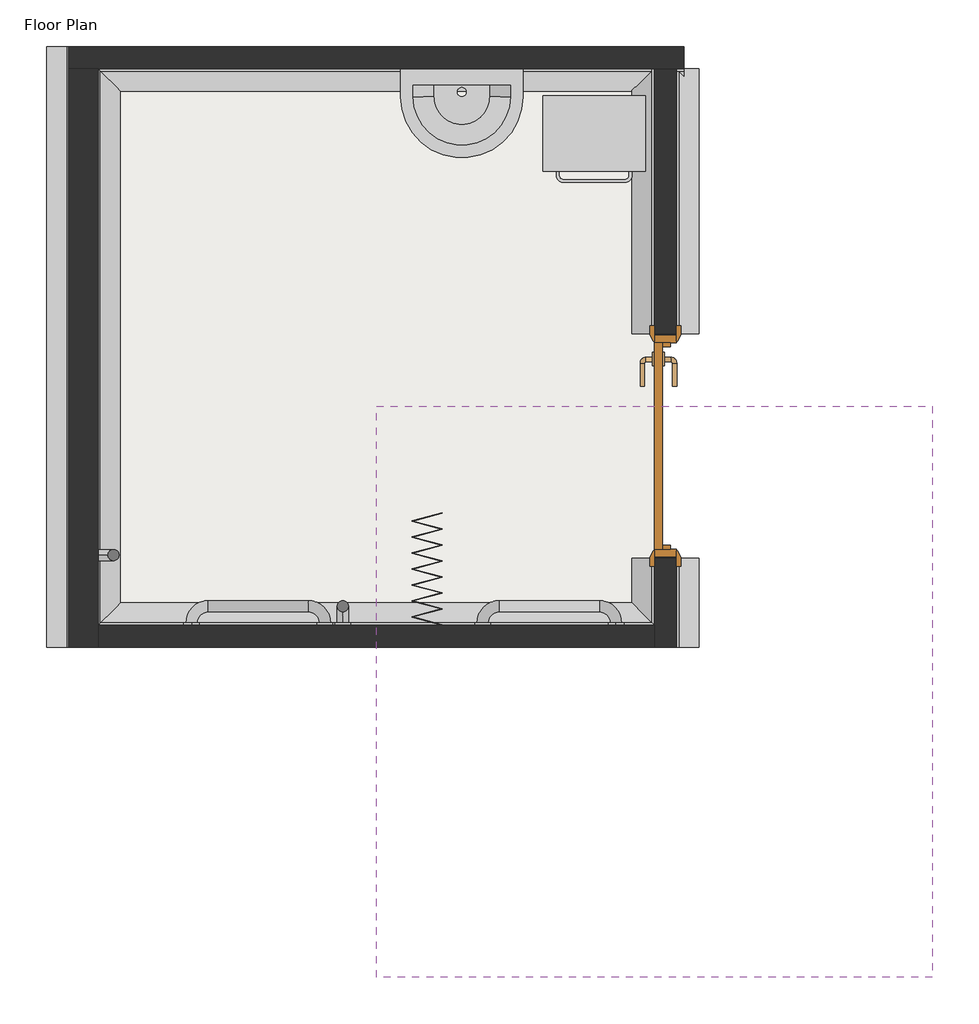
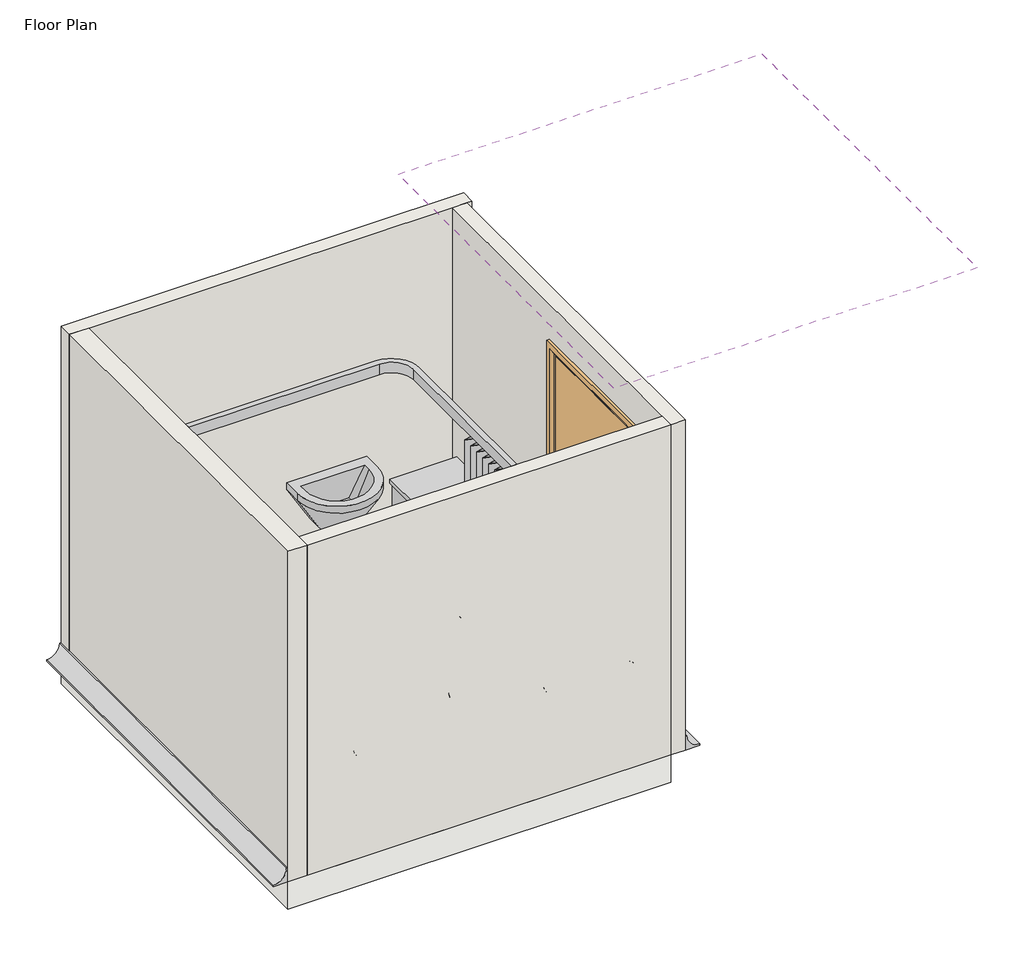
# One storey, incomplete: 10 proxies, 4 walls, 2 furniture elements, 1 covering, 1 door, 1 flow terminal, 1 slab.
"""IFC4 building model written with IfcOpenShell, lengths in millimetres."""

from ifc_helpers import new_model, si_unit, point, frame, frame_2d, origin, origin_with_axes, place, context, project, spatial, polyline, circle_curve, ellipse_curve, trimmed, segment, composite_curve, outline, extrude, faceted_brep, transform, mapped, element, save
from ifc_brep_helpers import plane_surface, revolved_surface, advanced_brep
from components import type_1_021b8e3e, type_1_f4c963d5, type_1_f76a5bbc, type_1_63a6e16b, door_1010x2110mm_ad0e13af, flow_terminal_9bf15598, furniture_46abfedd, furniture_af9008cf

model = new_model("IFC4")

# Units and contexts
model_context = context("Model", 3, world=origin())
ifc_project = project(units=[si_unit("LENGTHUNIT", "METRE", prefix="MILLI")], contexts=[model_context])

# Site, building, storey
site = spatial("IfcSite", under=ifc_project)
building = spatial("IfcBuilding", under=site)
storey = spatial("IfcBuildingStorey", under=building, Name="Floor Plan", Elevation=0.0)

# Proxies
placement = place(None, origin())
element("IfcBuildingElementProxy", 1, Name="Wall Sweeps", at=placement, inside=storey, context=model_context, shape_type="SweptSolid", body=[
    extrude(outline(composite_curve([segment(polyline([(0.0, 2105.0), (0.0, 2205.0), (10.0, 2205.0)]), True, "CONTINUOUS"), segment(trimmed(circle_curve(frame_2d((100.0, 2205.0)), 90.0), [point((10.0, 2205.0))], [point((100.0, 2115.0))], True, "CARTESIAN"), True, "CONTINUOUS"), segment(polyline([(100.0, 2115.0), (100.0, 2105.0), (0.0, 2105.0)]), True, "CONTINUOUS")], self_intersect=False)), frame((0.0, 2815.0, 0.0), z_axis=(0.0, 1.0, 0.0), x_axis=(0.0, 0.0, 1.0)), (0.0, 0.0, 1.0), 400.0),
    extrude(outline(composite_curve([segment(polyline([(0.0, 2105.0), (0.0, 2205.0), (10.0, 2205.0)]), True, "CONTINUOUS"), segment(trimmed(circle_curve(frame_2d((100.0, 2205.0)), 90.0), [point((10.0, 2205.0))], [point((100.0, 2115.0))], True, "CARTESIAN"), True, "CONTINUOUS"), segment(polyline([(100.0, 2115.0), (100.0, 2105.0), (0.0, 2105.0)]), True, "CONTINUOUS")], self_intersect=False)), frame((0.0, 4225.0, 0.0), z_axis=(0.0, 1.0, 0.0), x_axis=(0.0, 0.0, 1.0)), (0.0, 0.0, 1.0), 1190.0),
])
element("IfcBuildingElementProxy", 2, Name="Wall Sweeps", at=placement, inside=storey, context=model_context, shape_type="AdvancedBrep", body=[
    advanced_brep(
    [(-495.0, 5415.0, 0.0), (-395.0, 5315.0, 0.0), (-395.0, 5315.0, 10.0), (-485.0, 5405.0, 100.0), (-495.0, 5415.0, 100.0), (2139.0, 5415.0, 0.0), (2139.0, 5415.0, 100.0), (2139.0, 5405.0, 100.0), (2139.0, 5315.0, 10.0), (2139.0, 5315.0, 0.0)],
    [
        (0, 1),
        (1, 2),
        (2, 3, ellipse_curve(frame((-395.0, 5315.0, 100.0), z_axis=(0.7071067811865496, 0.7071067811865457, 0.0), x_axis=(0.7071067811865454, -0.7071067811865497, 0.0)), 127.2792206, 90.0)),
        (3, 4),
        (4, 0),
        (5, 6),
        (6, 7),
        (7, 8, circle_curve(frame((2139.0, 5315.0, 100.0), z_axis=(-1.0, 0.0, 0.0), x_axis=(0.0, -1.0, 0.0)), 90.0)),
        (8, 9),
        (9, 5),
        (0, 5),
        (9, 1),
        (8, 2),
        (7, 3),
        (6, 4),
    ],
    [
        plane_surface(frame((-495.0, 5415.0, 304.8), z_axis=(-0.7071067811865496, -0.7071067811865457, 0.0), x_axis=(0.7071067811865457, -0.7071067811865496, 0.0))),
        plane_surface(frame((2139.0, 5415.0, -100.4987562), z_axis=(1.0, 0.0, 0.0), x_axis=(0.0, 1.0, 0.0))),
        plane_surface(frame((-495.0, 5415.0, 0.0), z_axis=(0.0, 0.0, -1.0), x_axis=(1.0, 0.0, 0.0))),
        plane_surface(frame((-395.0, 5315.0, 0.0), z_axis=(0.0, -1.0, 0.0), x_axis=(1.0, 0.0, 0.0))),
        revolved_surface(polyline([(2139.0, 5225.0, 100.0), (-485.0, 5225.0, 100.0)]), (-495.0, 5315.0, 100.0), (1.0, 0.0, 0.0)),
        plane_surface(frame((-485.0, 5405.0, 100.0), z_axis=(0.0, 0.0, 1.0), x_axis=(1.0, 0.0, 0.0))),
        plane_surface(frame((-495.0, 5415.0, 100.0), z_axis=(0.0, 1.0, 0.0), x_axis=(1.0, 0.0, 0.0))),
    ],
    [
        (0, [[1, 2, 3, 4, 5]]),
        (1, [[6, 7, 8, 9, 10]]),
        (2, [[-1, 11, -10, 12]]),
        (3, [[-2, -12, -9, 13]]),
        (4, [[-3, -13, -8, 14]]),
        (5, [[-4, -14, -7, 15]]),
        (6, [[-5, -15, -6, -11]]),
    ],
),
])
element("IfcBuildingElementProxy", 3, Name="Wall Sweeps", at=placement, inside=storey, context=model_context, shape_type="AdvancedBrep", body=[
    advanced_brep(
    [(-495.0, 5415.0, 0.0), (-495.0, 5415.0, 100.0), (-485.0, 5405.0, 100.0), (-395.0, 5315.0, 10.0), (-395.0, 5315.0, 0.0), (-495.0, 2915.0, 0.0), (-395.0, 3015.0, 0.0), (-395.0, 3015.0, 10.0), (-485.0, 2925.0, 100.0), (-495.0, 2915.0, 100.0)],
    [
        (0, 1),
        (1, 2),
        (2, 3, ellipse_curve(frame((-395.0, 5315.0, 100.0), z_axis=(-0.7071067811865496, -0.7071067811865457, 0.0), x_axis=(0.7071067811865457, -0.7071067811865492, 0.0)), 127.2792206, 90.0)),
        (3, 4),
        (4, 0),
        (5, 6),
        (6, 7),
        (7, 8, ellipse_curve(frame((-395.0, 3015.0, 100.0), z_axis=(-0.707106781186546, 0.7071067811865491, 0.0), x_axis=(-0.7071067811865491, -0.7071067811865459, 0.0)), 127.2792206, 90.0)),
        (8, 9),
        (9, 5),
        (0, 5),
        (9, 1),
        (8, 2),
        (7, 3),
        (6, 4),
    ],
    [
        plane_surface(frame((-495.0, 5415.0, -304.8), z_axis=(0.7071067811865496, 0.7071067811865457, 0.0), x_axis=(0.7071067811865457, -0.7071067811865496, 0.0))),
        plane_surface(frame((-495.0, 2915.0, -304.8), z_axis=(0.707106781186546, -0.7071067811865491, 0.0), x_axis=(0.7071067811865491, 0.707106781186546, 0.0))),
        plane_surface(frame((-495.0, 5415.0, 0.0), z_axis=(-1.0, 0.0, 0.0), x_axis=(0.0, -1.0, 0.0))),
        plane_surface(frame((-495.0, 5415.0, 100.0), z_axis=(0.0, 0.0, 1.0), x_axis=(0.0, -1.0, 0.0))),
        revolved_surface(polyline([(-305.0, 2925.0, 100.0), (-305.0, 5405.0, 100.0)]), (-395.0, 5415.0, 100.0), (0.0, -1.0, 0.0)),
        plane_surface(frame((-395.0, 5315.0, 10.0), z_axis=(1.0, 0.0, 0.0), x_axis=(0.0, -1.0, 0.0))),
        plane_surface(frame((-395.0, 5315.0, 0.0), z_axis=(0.0, 0.0, -1.0), x_axis=(0.0, -1.0, 0.0))),
    ],
    [
        (0, [[1, 2, 3, 4, 5]]),
        (1, [[6, 7, 8, 9, 10]]),
        (2, [[-1, 11, -10, 12]]),
        (3, [[-2, -12, -9, 13]]),
        (4, [[-3, -13, -8, 14]]),
        (5, [[-4, -14, -7, 15]]),
        (6, [[-5, -15, -6, -11]]),
    ],
),
])
element("IfcBuildingElementProxy", 4, Name="Wall Sweeps", at=placement, inside=storey, context=model_context, shape_type="AdvancedBrep", body=[
    advanced_brep(
    [(-495.0, 2915.0, 0.0), (-495.0, 2915.0, 100.0), (-485.0, 2925.0, 100.0), (-395.0, 3015.0, 10.0), (-395.0, 3015.0, 0.0), (2005.0, 2915.0, 0.0), (1905.0, 3015.0, 0.0), (1905.0, 3015.0, 10.0), (1995.0, 2925.0, 100.0), (2005.0, 2915.0, 100.0)],
    [
        (0, 1),
        (1, 2),
        (2, 3, ellipse_curve(frame((-395.0, 3015.0, 100.0), z_axis=(0.707106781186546, -0.7071067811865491, 0.0), x_axis=(0.707106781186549, 0.707106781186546, 0.0)), 127.2792206, 90.0)),
        (3, 4),
        (4, 0),
        (5, 6),
        (6, 7),
        (7, 8, ellipse_curve(frame((1905.0, 3015.0, 100.0), z_axis=(-0.7071067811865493, -0.7071067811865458, 0.0), x_axis=(0.7071067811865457, -0.7071067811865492, 0.0)), 127.2792206, 90.0)),
        (8, 9),
        (9, 5),
        (0, 5),
        (9, 1),
        (8, 2),
        (7, 3),
        (6, 4),
    ],
    [
        plane_surface(frame((-495.0, 2915.0, -304.8), z_axis=(-0.707106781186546, 0.7071067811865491, 0.0), x_axis=(0.7071067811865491, 0.707106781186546, 0.0))),
        plane_surface(frame((2005.0, 2915.0, -304.8), z_axis=(0.7071067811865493, 0.7071067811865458, 0.0), x_axis=(-0.7071067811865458, 0.7071067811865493, 0.0))),
        plane_surface(frame((-495.0, 2915.0, 0.0), z_axis=(0.0, -1.0, 0.0), x_axis=(1.0, 0.0, 0.0))),
        plane_surface(frame((-495.0, 2915.0, 100.0), z_axis=(0.0, 0.0, 1.0), x_axis=(1.0, 0.0, 0.0))),
        revolved_surface(polyline([(1995.0, 3105.0, 100.0), (-485.0, 3105.0, 100.0)]), (-495.0, 3015.0, 100.0), (1.0, 0.0, 0.0)),
        plane_surface(frame((-395.0, 3015.0, 10.0), z_axis=(0.0, 1.0, 0.0), x_axis=(1.0, 0.0, 0.0))),
        plane_surface(frame((-395.0, 3015.0, 0.0), z_axis=(0.0, 0.0, -1.0), x_axis=(1.0, 0.0, 0.0))),
    ],
    [
        (0, [[1, 2, 3, 4, 5]]),
        (1, [[6, 7, 8, 9, 10]]),
        (2, [[-1, 11, -10, 12]]),
        (3, [[-2, -12, -9, 13]]),
        (4, [[-3, -13, -8, 14]]),
        (5, [[-4, -14, -7, 15]]),
        (6, [[-5, -15, -6, -11]]),
    ],
),
])
element("IfcBuildingElementProxy", 5, Name="Wall Sweeps", at=placement, inside=storey, context=model_context, shape_type="AdvancedBrep", body=[
    advanced_brep(
    [(2005.0, 2915.0, 0.0), (2005.0, 2915.0, 100.0), (1995.0, 2925.0, 100.0), (1905.0, 3015.0, 10.0), (1905.0, 3015.0, 0.0), (2005.0, 3215.0, 0.0), (1905.0, 3215.0, 0.0), (1905.0, 3215.0, 10.0), (1995.0, 3215.0, 100.0), (2005.0, 3215.0, 100.0)],
    [
        (0, 1),
        (1, 2),
        (2, 3, ellipse_curve(frame((1905.0, 3015.0, 100.0), z_axis=(0.7071067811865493, 0.7071067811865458, 0.0), x_axis=(-0.7071067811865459, 0.7071067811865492, 0.0)), 127.2792206, 90.0)),
        (3, 4),
        (4, 0),
        (5, 6),
        (6, 7),
        (7, 8, circle_curve(frame((1905.0, 3215.0, 100.0), z_axis=(0.0, -1.0, 0.0), x_axis=(-1.0, 0.0, 0.0)), 90.0)),
        (8, 9),
        (9, 5),
        (0, 5),
        (9, 1),
        (8, 2),
        (7, 3),
        (6, 4),
    ],
    [
        plane_surface(frame((2005.0, 2915.0, -304.8), z_axis=(-0.7071067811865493, -0.7071067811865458, 0.0), x_axis=(-0.7071067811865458, 0.7071067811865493, 0.0))),
        plane_surface(frame((1904.5012438, 3215.0, 0.0), z_axis=(0.0, 1.0, 0.0), x_axis=(0.0, 0.0, 1.0))),
        plane_surface(frame((2005.0, 2915.0, 0.0), z_axis=(1.0, 0.0, 0.0), x_axis=(0.0, 1.0, 0.0))),
        plane_surface(frame((2005.0, 2915.0, 100.0), z_axis=(0.0, 0.0, 1.0), x_axis=(0.0, 1.0, 0.0))),
        revolved_surface(polyline([(1815.0, 3215.0, 100.0), (1815.0, 2925.0, 100.0)]), (1905.0, 2915.0, 100.0), (0.0, 1.0, 0.0)),
        plane_surface(frame((1905.0, 3015.0, 10.0), z_axis=(-1.0, 0.0, 0.0), x_axis=(0.0, 1.0, 0.0))),
        plane_surface(frame((1905.0, 3015.0, 0.0), z_axis=(0.0, 0.0, -1.0), x_axis=(0.0, 1.0, 0.0))),
    ],
    [
        (0, [[1, 2, 3, 4, 5]]),
        (1, [[6, 7, 8, 9, 10]]),
        (2, [[-1, 11, -10, 12]]),
        (3, [[-2, -12, -9, 13]]),
        (4, [[-3, -13, -8, 14]]),
        (5, [[-4, -14, -7, 15]]),
        (6, [[-5, -15, -6, -11]]),
    ],
),
    advanced_brep(
    [(2005.0, 4225.0, 0.0), (2005.0, 4225.0, 100.0), (1995.0, 4225.0, 100.0), (1905.0, 4225.0, 10.0), (1905.0, 4225.0, 0.0), (2005.0, 5415.0, 0.0), (1905.0, 5415.0, 0.0), (1905.0, 5415.0, 10.0), (1995.0, 5415.0, 100.0), (2005.0, 5415.0, 100.0)],
    [
        (0, 1),
        (1, 2),
        (2, 3, circle_curve(frame((1905.0, 4225.0, 100.0), z_axis=(0.0, 1.0, 0.0), x_axis=(-1.0, 0.0, 0.0)), 90.0)),
        (3, 4),
        (4, 0),
        (5, 6),
        (6, 7),
        (7, 8, circle_curve(frame((1905.0, 5415.0, 100.0), z_axis=(0.0, -1.0, 0.0), x_axis=(-1.0, 0.0, 0.0)), 90.0)),
        (8, 9),
        (9, 5),
        (0, 5),
        (9, 1),
        (8, 2),
        (7, 3),
        (6, 4),
    ],
    [
        plane_surface(frame((1904.5012438, 4225.0, 0.0), z_axis=(0.0, -1.0, 0.0), x_axis=(0.0, 0.0, 1.0))),
        plane_surface(frame((1904.5012438, 5415.0, 0.0), z_axis=(0.0, 1.0, 0.0), x_axis=(0.0, 0.0, 1.0))),
        plane_surface(frame((2005.0, 4225.0, 0.0), z_axis=(1.0, 0.0, 0.0), x_axis=(0.0, 1.0, 0.0))),
        plane_surface(frame((2005.0, 4225.0, 100.0), z_axis=(0.0, 0.0, 1.0), x_axis=(0.0, 1.0, 0.0))),
        revolved_surface(polyline([(1815.0, 5415.0, 100.0), (1815.0, 4225.0, 100.0)]), (1905.0, 4225.0, 100.0), (0.0, 1.0, 0.0)),
        plane_surface(frame((1905.0, 4225.0, 10.0), z_axis=(-1.0, 0.0, 0.0), x_axis=(0.0, 1.0, 0.0))),
        plane_surface(frame((1905.0, 4225.0, 0.0), z_axis=(0.0, 0.0, -1.0), x_axis=(0.0, 1.0, 0.0))),
    ],
    [
        (0, [[1, 2, 3, 4, 5]]),
        (1, [[6, 7, 8, 9, 10]]),
        (2, [[-1, 11, -10, 12]]),
        (3, [[-2, -12, -9, 13]]),
        (4, [[-3, -13, -8, 14]]),
        (5, [[-4, -14, -7, 15]]),
        (6, [[-5, -15, -6, -11]]),
    ],
),
])
element("IfcBuildingElementProxy", 6, Name="Wall Sweeps", at=placement, inside=storey, context=model_context, shape_type="AdvancedBrep", body=[
    advanced_brep(
    [(-627.0, 5515.0, 0.0), (-727.0, 5515.0, 0.0), (-727.0, 5515.0, 10.0), (-637.0, 5515.0, 100.0), (-627.0, 5515.0, 100.0), (-627.0, 2815.0, 0.0), (-627.0, 2815.0, 100.0), (-637.0, 2815.0, 100.0), (-727.0, 2815.0, 10.0), (-727.0, 2815.0, 0.0), (-627.0, 5415.0, 0.0)],
    [
        (0, 1),
        (1, 2),
        (2, 3, circle_curve(frame((-727.0, 5515.0, 100.0), z_axis=(0.0, -1.0, 0.0), x_axis=(-1.0, 0.0, 0.0)), 90.0)),
        (3, 4),
        (4, 0),
        (5, 6),
        (6, 7),
        (7, 8, circle_curve(frame((-727.0, 2815.0, 100.0), z_axis=(0.0, 1.0, 0.0), x_axis=(-1.0, 0.0, 0.0)), 90.0)),
        (8, 9),
        (9, 5),
        (0, 10),
        (10, 5),
        (9, 1),
        (8, 2),
        (7, 3),
        (6, 4),
    ],
    [
        plane_surface(frame((-727.4987562, 5515.0, 0.0), z_axis=(0.0, 1.0, 0.0), x_axis=(0.0, 0.0, -1.0))),
        plane_surface(frame((-727.4987562, 2815.0, 0.0), z_axis=(0.0, -1.0, 0.0), x_axis=(0.0, 0.0, -1.0))),
        plane_surface(frame((-627.0, 5515.0, 0.0), z_axis=(0.0, 0.0, -1.0), x_axis=(0.0, -1.0, 0.0))),
        plane_surface(frame((-727.0, 5515.0, 0.0), z_axis=(-1.0, 0.0, 0.0), x_axis=(0.0, -1.0, 0.0))),
        revolved_surface(polyline([(-817.0, 2815.0, 100.0), (-817.0, 5515.0, 100.0)]), (-727.0, 5515.0, 100.0), (0.0, -1.0, 0.0)),
        plane_surface(frame((-637.0, 5515.0, 100.0), z_axis=(0.0, 0.0, 1.0), x_axis=(0.0, -1.0, 0.0))),
        plane_surface(frame((-627.0, 5515.0, 100.0), z_axis=(1.0, 0.0, 0.0), x_axis=(0.0, -1.0, 0.0))),
    ],
    [
        (0, [[1, 2, 3, 4, 5]]),
        (1, [[6, 7, 8, 9, 10]]),
        (2, [[-1, 11, 12, -10, 13]]),
        (3, [[-2, -13, -9, 14]]),
        (4, [[-3, -14, -8, 15]]),
        (5, [[-4, -15, -7, 16]]),
        (6, [[-5, -16, -6, -12, -11]]),
    ],
),
])
type_1_shape = type_1_021b8e3e(model_context)
element("IfcBuildingElementProxy", 7, Name="BIMHealth-Grab_Rail_Horizontal-LOD2A-v1 : Type 1", ObjectType="BIMHealth-Grab_Rail_Horizontal-LOD2A-v1 : Type 1", at=placement, inside=storey, context=model_context, shape_type="MappedRepresentation", body=[
    mapped(type_1_shape, transform((100.0, 2865.0, 0.0), x_axis=(1.0, 0.0, 0.0), y_axis=(0.0, 1.0, 0.0), z_axis=(0.0, 0.0, 1.0))),
])
type_1_2_shape = type_1_f4c963d5(model_context)
element("IfcBuildingElementProxy", 8, Name="BIMHealth-Grab_Rail_Vertical-LOD2A-v1 : Type 1", ObjectType="BIMHealth-Grab_Rail_Vertical-LOD2A-v1 : Type 1", at=placement, inside=storey, context=model_context, shape_type="MappedRepresentation", body=[
    mapped(type_1_2_shape, transform((730.0, 2865.0, 0.0), x_axis=(-1.0, 0.0, 0.0), y_axis=(0.0, -1.0, 0.0), z_axis=(0.0, 0.0, 1.0))),
])
type_1_3_shape = type_1_f76a5bbc(model_context)
element("IfcBuildingElementProxy", 9, Name="BIMHealth-Grab_Rail_Horizontal-LOD2A-v1 : Type 1", ObjectType="BIMHealth-Grab_Rail_Horizontal-LOD2A-v1 : Type 1", at=placement, inside=storey, context=model_context, shape_type="MappedRepresentation", body=[
    mapped(type_1_3_shape, transform((1658.5052831, 2865.0, 0.0), x_axis=(-1.0, 0.0, 0.0), y_axis=(0.0, -1.0, 0.0), z_axis=(0.0, 0.0, 1.0))),
])
type_1_4_shape = type_1_63a6e16b(model_context)
element("IfcBuildingElementProxy", 10, Name="BIMHealth-Grab_Rail_Vertical-LOD2A-v1 : Type 1", ObjectType="BIMHealth-Grab_Rail_Vertical-LOD2A-v1 : Type 1", at=placement, inside=storey, context=model_context, shape_type="MappedRepresentation", body=[
    mapped(type_1_4_shape, transform((-561.0, 3355.0, 0.0), x_axis=(0.0, -1.0, 0.0), y_axis=(1.0, 0.0, 0.0), z_axis=(0.0, 0.0, 1.0))),
])

# Covering
element("IfcCovering", 11, ObjectType="BIMHealth - Generic Ceiling", at=placement, inside=storey, context=model_context, shape_type="SweptSolid", body=[
    extrude(outline(polyline([(3256.0020268, 1331.4241738), (756.0020268, 1331.4241738), (756.0020268, 3898.7260975), (3256.0020268, 3898.7260975), (3256.0020268, 1331.4241738)])), frame((0.0, 0.0, 4000.0), z_axis=(0.0, 0.0, 1.0), x_axis=(1.0, 0.0, 0.0)), (0.0, 0.0, 1.0), 52.0),
])

# Door
door_1010x2110mm_shape = door_1010x2110mm_ad0e13af(model_context)
element("IfcDoor", 12, ObjectType="BIMHealth-Single_Door-LOD2A-v1 : 1010x2110mm", at=placement, inside=storey, context=model_context, shape_type="MappedRepresentation", body=[
    mapped(door_1010x2110mm_shape, transform((2055.0, 3720.0, 0.0), x_axis=(0.0, -1.0, 0.0), y_axis=(1.0, 0.0, 0.0), z_axis=(0.0, 0.0, 1.0))),
])

# Flow terminal
flow_terminal_shape = flow_terminal_9bf15598(model_context)
element("IfcFlowTerminal", 13, ObjectType="BIMHealth-Wash_basin_Doc_M-LOD2A-v1 : BIMHealth-Wash_basin_Doc_M-LOD2A-v1", at=placement, inside=storey, context=model_context, shape_type="MappedRepresentation", body=[
    mapped(flow_terminal_shape, transform((1415.0, 5415.0, 500.0), x_axis=(-1.0000000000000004, 0.0, 0.0), y_axis=(0.0, -1.0000000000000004, 0.0), z_axis=(0.0, 0.0, 1.0))),
])

# Furniture
furniture_shape = furniture_46abfedd(model_context)
element("IfcFurniture", 14, ObjectType="BIMHealth-Curtain_Doc_M-LOD2A-v1 : BIMHealth-Curtain_Doc_M-LOD2A-v1", at=placement, inside=storey, context=model_context, shape_type="MappedRepresentation", body=[
    mapped(furniture_shape, transform((1005.0, 2915.0, 0.0), x_axis=(0.0, 1.0000000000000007, 0.0), y_axis=(-1.0000000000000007, 0.0, 0.0), z_axis=(0.0, 0.0, 1.0))),
])
furniture_2_shape = furniture_af9008cf(model_context)
element("IfcFurniture", 15, ObjectType="BIMHealth-Bin_Clinical_Foot_Operated-LOD2A-v1 : BIMHealth-Bin_Clinical_Foot_Operated-LOD2A-v1", at=placement, inside=storey, context=model_context, shape_type="MappedRepresentation", body=[
    mapped(furniture_2_shape, transform((1955.0, 5285.0, 0.0), x_axis=(-1.0000000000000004, 0.0, 0.0), y_axis=(0.0, -1.0000000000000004, 0.0), z_axis=(0.0, 0.0, 1.0))),
])

# Slab
element("IfcSlab", 16, ObjectType="BIMHealth - Generic Floor", at=placement, inside=storey, context=model_context, shape_type="SweptSolid", body=[
    extrude(outline(polyline([(2005.0, 5515.0), (2005.0, 2815.0), (-627.0, 2815.0), (-627.0, 5515.0), (2005.0, 5515.0)])), frame((0.0, 0.0, -200.0), z_axis=(0.0, 0.0, 1.0), x_axis=(1.0, 0.0, 0.0)), (0.0, 0.0, 1.0), 200.0),
])

# Walls
element("IfcWall", 17, ObjectType="BHMS-FR60 Partn70-vinyl sktg-both sides", at=placement, inside=storey, context=model_context, shape_type="Brep", body=[
    faceted_brep([(-627.0, 5415.0, 0.0), (-627.0, 2815.0, 0.0), (-627.0, 2815.0, 100.0), (-627.0, 2815.0, 2400.0), (-627.0, 5415.0, 2400.0), (-495.0, 5415.0, 0.0), (-495.0, 5415.0, 2400.0), (-495.0, 2915.0, 2400.0), (-495.0, 2815.0, 2400.0), (-495.0, 2815.0, 0.0), (-495.0, 2915.0, 0.0)], [[[0, 1, 2, 3, 4]], [[5, 6, 7, 8, 9, 10]], [[1, 0, 5, 10, 9]], [[4, 3, 8, 7, 6]], [[0, 4, 6, 5]], [[3, 2, 1, 9, 8]]]),
])
element("IfcWall", 18, ObjectType="BIMHealth - Generic Wall", at=placement, inside=storey, context=model_context, shape_type="Brep", body=[
    faceted_brep([(-627.0, 5415.0, 0.0), (-495.0, 5415.0, 0.0), (2005.0, 5415.0, 0.0), (2105.0, 5415.0, 0.0), (2139.0, 5415.0, 0.0), (2139.0, 5415.0, 100.0), (2139.0, 5415.0, 2400.0), (2105.0, 5415.0, 2400.0), (2005.0, 5415.0, 2400.0), (-495.0, 5415.0, 2400.0), (-627.0, 5415.0, 2400.0), (-627.0, 5515.0, 0.0), (-627.0, 5515.0, 2400.0), (2139.0, 5515.0, 2400.0), (2139.0, 5515.0, 0.0)], [[[0, 1, 2, 3, 4, 5, 6, 7, 8, 9, 10]], [[11, 12, 13, 14]], [[4, 3, 2, 1, 0, 11, 14]], [[6, 5, 4, 14, 13]], [[10, 9, 8, 7, 6, 13, 12]], [[0, 10, 12, 11]]]),
])
element("IfcWall", 19, ObjectType="BIMHealth - Generic Wall", at=placement, inside=storey, context=model_context, shape_type="SweptSolid", body=[
    extrude(outline(polyline([(2005.0, 2815.0), (-495.0, 2815.0), (-495.0, 2915.0), (2005.0, 2915.0), (2005.0, 2815.0)])), origin_with_axes(), (0.0, 0.0, 1.0), 2400.0),
])
element("IfcWall", 20, ObjectType="BIMHealth - Generic Wall 2", at=placement, inside=storey, context=model_context, shape_type="Brep", body=[
    faceted_brep([(2105.0, 5415.0, 2400.0), (2105.0, 2815.0, 2400.0), (2105.0, 2815.0, 100.0), (2105.0, 2815.0, 0.0), (2105.0, 3215.0, 0.0), (2105.0, 3215.0, 100.0), (2105.0, 3215.0, 2110.0), (2105.0, 4225.0, 2110.0), (2105.0, 4225.0, 100.0), (2105.0, 4225.0, 0.0), (2105.0, 5415.0, 0.0), (2105.0, 5415.0, 100.0), (2005.0, 2815.0, 2400.0), (2005.0, 2915.0, 2400.0), (2005.0, 5415.0, 2400.0), (2005.0, 5415.0, 100.0), (2005.0, 5415.0, 0.0), (2005.0, 4225.0, 0.0), (2005.0, 4225.0, 100.0), (2005.0, 4225.0, 2110.0), (2005.0, 3215.0, 2110.0), (2005.0, 3215.0, 100.0), (2005.0, 3215.0, 0.0), (2005.0, 2915.0, 0.0), (2005.0, 2815.0, 0.0)], [[[0, 1, 2, 3, 4, 5, 6, 7, 8, 9, 10, 11]], [[12, 13, 14, 15, 16, 17, 18, 19, 20, 21, 22, 23, 24]], [[16, 10, 9, 17]], [[3, 24, 23, 22, 4]], [[1, 0, 14, 13, 12]], [[20, 6, 5, 4, 22, 21]], [[6, 20, 19, 7]], [[7, 19, 18, 17, 9, 8]], [[0, 11, 10, 16, 15, 14]], [[3, 2, 1, 12, 24]]]),
])

save(model, "model.ifc")
